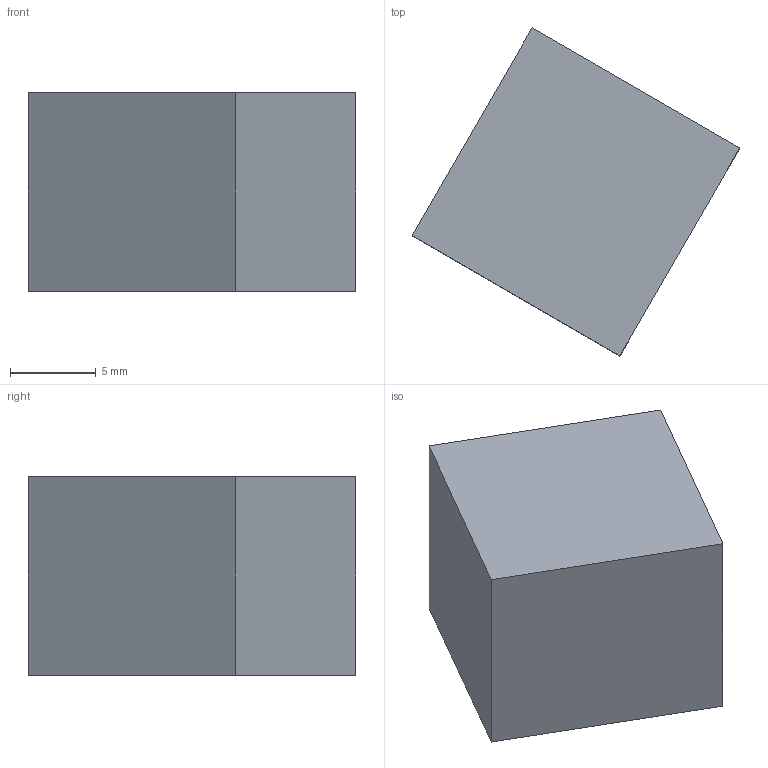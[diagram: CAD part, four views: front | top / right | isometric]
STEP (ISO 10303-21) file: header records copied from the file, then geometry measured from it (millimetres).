
FILE_DESCRIPTION(('Open CASCADE Model'),'2;1');
FILE_NAME('Open CASCADE Shape Model','2026-09-20T16:04:59',('Author'),( 'Open CASCADE'),'Open CASCADE STEP processor 8.0','Open CASCADE 8.0' ,'Unknown');
FILE_SCHEMA(('AP242_MANAGED_MODEL_BASED_3D_ENGINEERING_MIM_LF {1 0 10303 442 1 1 4 }' ));
Length unit declared in the file: millimetre
Products named in the file (1): Open CASCADE STEP translator 8.0 72
Bounding box: 19.12 x 19.12 x 11.6 mm (x, y, z)
Volume: 2273.6 mm3; surface area: 1041.6 mm2
Topology: 1 solids, 1 shells, 6 faces, 12 edges, 8 vertices
Faces by surface type: plane 6
Entity records: 322 total; most frequent: CARTESIAN_POINT 51, DIRECTION 50, LINE 36, VECTOR 36, ORIENTED_EDGE 24, PCURVE 24, DEFINITIONAL_REPRESENTATION 24, EDGE_CURVE 12
